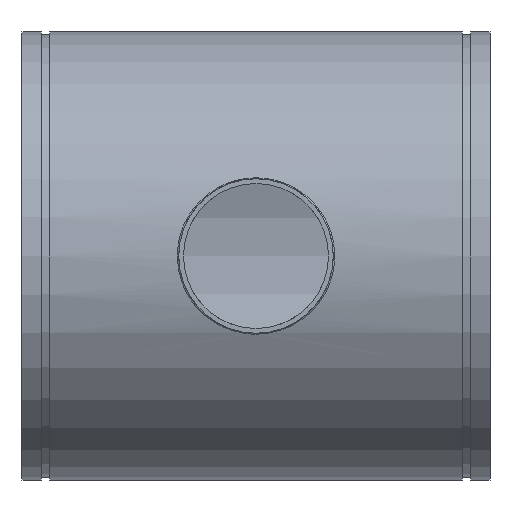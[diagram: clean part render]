
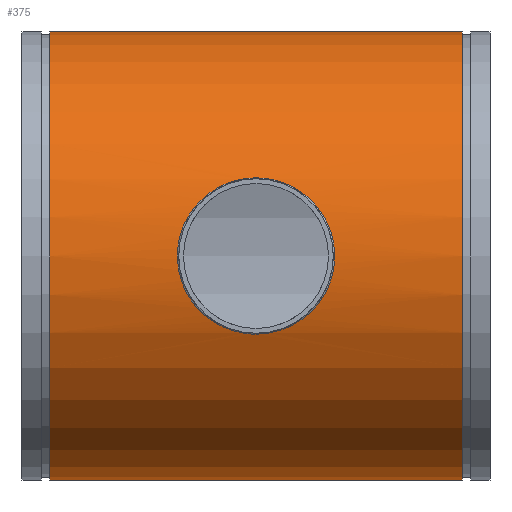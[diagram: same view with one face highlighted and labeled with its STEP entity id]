
A CAD part, front view. The second image highlights one B-rep face of the part: STEP entity #375.
In plain terms, the highlighted cylindrical face has radius 486.41 mm (diameter 972.82 mm), a full revolution.
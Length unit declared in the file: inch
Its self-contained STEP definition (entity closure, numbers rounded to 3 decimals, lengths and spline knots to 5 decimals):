
#54=FACE_BOUND('',#119,.T.);
#65=LINE('',#819,#76);
#76=VECTOR('',#483,19.15);
#87=CYLINDRICAL_SURFACE('',#415,19.15);
#98=FACE_OUTER_BOUND('',#118,.T.);
#118=EDGE_LOOP('',(#266,#267,#268,#269));
#119=EDGE_LOOP('',(#270));
#150=B_SPLINE_CURVE_WITH_KNOTS('',3,(#787,#788,#789,#790,#791,#792,#793,
#794,#795,#796,#797,#798,#799,#800,#801,#802,#803,#804,#805,#806,#807,#808,
#809,#810,#811,#812,#813,#814),.UNSPECIFIED.,.T.,.F.,(4,1,1,1,1,1,1,1,1,
1,1,1,1,1,1,1,1,1,1,1,1,1,1,1,1,4),(-101.9472,-98.30623,
-94.66526,-87.38331,-82.52868,-80.10137,
-77.67406,-75.24674,-72.81943,-67.9648,
-63.11017,-58.25554,-53.40091,-48.54629,
-43.69166,-38.83703,-33.9824,-31.55509,
-29.12777,-25.4868,-24.27314,-19.41851,
-14.56389,-7.28194,-3.64097,0.),.UNSPECIFIED.);
#154=CIRCLE('',#416,19.15);
#155=CIRCLE('',#417,19.15);
#182=VERTEX_POINT('',#751);
#185=VERTEX_POINT('',#816);
#186=VERTEX_POINT('',#818);
#219=EDGE_CURVE('',#182,#182,#150,.T.);
#220=EDGE_CURVE('',#185,#185,#154,.T.);
#221=EDGE_CURVE('',#185,#186,#65,.T.);
#222=EDGE_CURVE('',#186,#186,#155,.T.);
#266=ORIENTED_EDGE('',*,*,#220,.T.);
#267=ORIENTED_EDGE('',*,*,#221,.T.);
#268=ORIENTED_EDGE('',*,*,#222,.T.);
#269=ORIENTED_EDGE('',*,*,#221,.F.);
#270=ORIENTED_EDGE('',*,*,#219,.F.);
#375=ADVANCED_FACE('',(#98,#54),#87,.T.);
#415=AXIS2_PLACEMENT_3D('',#815,#479,#480);
#416=AXIS2_PLACEMENT_3D('',#817,#481,#482);
#417=AXIS2_PLACEMENT_3D('',#820,#484,#485);
#479=DIRECTION('center_axis',(-1.,0.,0.));
#480=DIRECTION('ref_axis',(0.,-1.,0.));
#481=DIRECTION('center_axis',(1.,0.,0.));
#482=DIRECTION('ref_axis',(0.,-1.,0.));
#483=DIRECTION('',(1.,0.,0.));
#484=DIRECTION('center_axis',(-1.,0.,0.));
#485=DIRECTION('ref_axis',(0.,-1.,0.));
#751=CARTESIAN_POINT('',(0.,-17.94663,-6.68139));
#787=CARTESIAN_POINT('Ctrl Pts',(0.,-17.94663,
-6.68139));
#788=CARTESIAN_POINT('Ctrl Pts',(0.50708,-17.94663,-6.68139));
#789=CARTESIAN_POINT('Ctrl Pts',(1.5208,-17.98997,-6.56661));
#790=CARTESIAN_POINT('Ctrl Pts',(3.43425,-18.22833,-5.89661));
#791=CARTESIAN_POINT('Ctrl Pts',(5.16123,-18.64578,-4.52447));
#792=CARTESIAN_POINT('Ctrl Pts',(6.178,-18.96531,-2.78389));
#793=CARTESIAN_POINT('Ctrl Pts',(6.57867,-19.09928,-1.50327));
#794=CARTESIAN_POINT('Ctrl Pts',(6.73137,-19.15228,-0.50541));
#795=CARTESIAN_POINT('Ctrl Pts',(6.73128,-19.15208,0.50532));
#796=CARTESIAN_POINT('Ctrl Pts',(6.52797,-19.08207,1.83618));
#797=CARTESIAN_POINT('Ctrl Pts',(5.90305,-18.87288,3.40406));
#798=CARTESIAN_POINT('Ctrl Pts',(4.64229,-18.51183,4.96921));
#799=CARTESIAN_POINT('Ctrl Pts',(2.97635,-18.15916,6.10264));
#800=CARTESIAN_POINT('Ctrl Pts',(1.02764,-17.93761,6.70633));
#801=CARTESIAN_POINT('Ctrl Pts',(-1.02761,-17.93753,6.70648));
#802=CARTESIAN_POINT('Ctrl Pts',(-2.9763,-18.15917,6.10253));
#803=CARTESIAN_POINT('Ctrl Pts',(-4.64242,-18.51191,4.9693));
#804=CARTESIAN_POINT('Ctrl Pts',(-5.69284,-18.81259,3.66469));
#805=CARTESIAN_POINT('Ctrl Pts',(-6.27815,-18.99855,2.46351));
#806=CARTESIAN_POINT('Ctrl Pts',(-6.62895,-19.1164,1.34328));
#807=CARTESIAN_POINT('Ctrl Pts',(-6.74405,-19.15661,0.33591));
#808=CARTESIAN_POINT('Ctrl Pts',(-6.69345,-19.13915,-1.00776));
#809=CARTESIAN_POINT('Ctrl Pts',(-6.34783,-19.01887,-2.49394));
#810=CARTESIAN_POINT('Ctrl Pts',(-5.16097,-18.64553,-4.52444));
#811=CARTESIAN_POINT('Ctrl Pts',(-3.43431,-18.22844,-5.89667));
#812=CARTESIAN_POINT('Ctrl Pts',(-1.52076,-17.98992,-6.56658));
#813=CARTESIAN_POINT('Ctrl Pts',(-0.50708,-17.94663,-6.68139));
#814=CARTESIAN_POINT('Ctrl Pts',(0.,-17.94663,
-6.68139));
#815=CARTESIAN_POINT('Origin',(20.,0.,0.));
#816=CARTESIAN_POINT('',(-17.625,19.15,0.));
#817=CARTESIAN_POINT('Origin',(-17.625,0.,0.));
#818=CARTESIAN_POINT('',(17.625,19.15,0.));
#819=CARTESIAN_POINT('',(20.,19.15,0.));
#820=CARTESIAN_POINT('Origin',(17.625,0.,0.));
